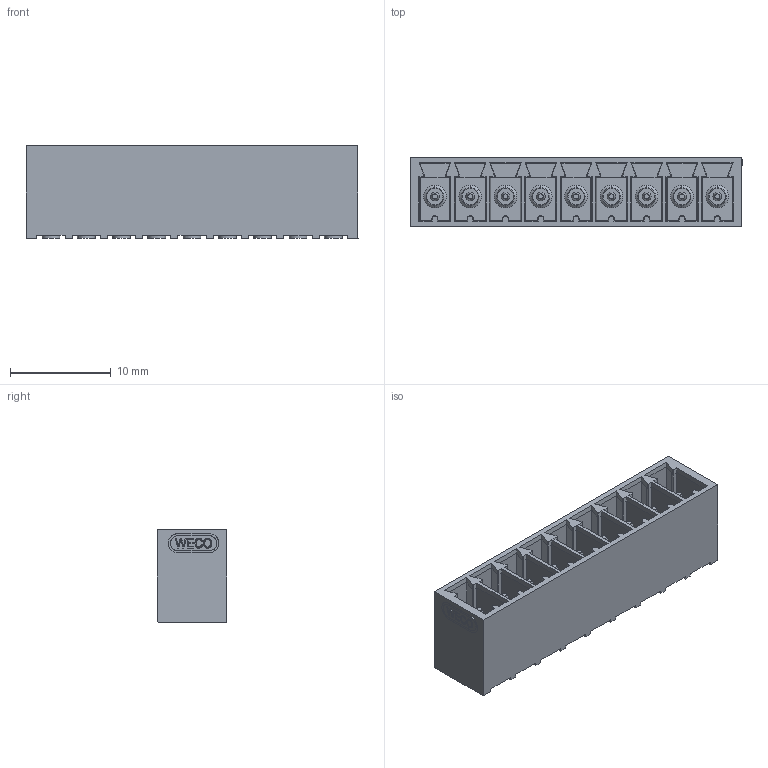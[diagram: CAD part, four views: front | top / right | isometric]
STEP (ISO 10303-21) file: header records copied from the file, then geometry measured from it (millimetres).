
FILE_DESCRIPTION (( 'STEP AP214' ), '1' );
FILE_NAME ('110-M-221-SMD-09.STEP', '2025-03-25T12:37:08', ( '' ), ( '' ), 'SwSTEP 2.0', 'SolidWorks 2016', '' );
FILE_SCHEMA (( 'AUTOMOTIVE_DESIGN' ));
Length unit declared in the file: millimetre
Products named in the file (1): 110-M-221-SMD-09
Bounding box: 32.92 x 6.9 x 9.2 mm (x, y, z)
Volume: 992.3 mm3; surface area: 2721.2 mm2
Topology: 1 solids, 1 shells, 990 faces, 2668 edges, 1723 vertices
Faces by surface type: plane 779, cylinder 114, cone 97
Entity records: 41467 total; most frequent: CARTESIAN_POINT 5394, ORIENTED_EDGE 5336, DIRECTION 5017, EDGE_CURVE 2668, VECTOR 2293, LINE 2293, VERTEX_POINT 1723, AXIS2_PLACEMENT_3D 1362
